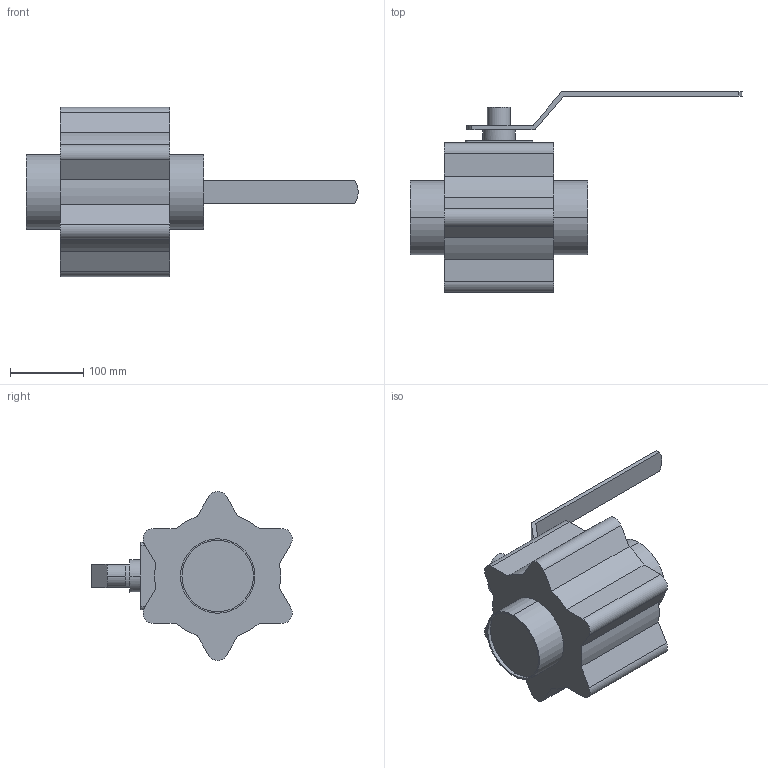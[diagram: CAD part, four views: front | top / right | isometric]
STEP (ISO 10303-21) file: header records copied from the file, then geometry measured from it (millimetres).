
FILE_DESCRIPTION(('Creo Elements/Direct Modeling STEP Export'),'2;1');
FILE_NAME('BLV1-4T-H-12S.stp','2019-05-10T 8:30:05',(''),(''),'Creo Elements/Direct Modeling STEP processor for AP214 (Solid Model)','Creo Elements/Direct Modeling 19.0F 14-Feb-2017 (C) Parametric Technology GmbH','');
FILE_SCHEMA(('AUTOMOTIVE_DESIGN { 1 0 10303 214 1 1 1 1 }'));
Length unit declared in the file: millimetre
Products named in the file (2): BLV1-4T-H-12S
Assembly tree (1 placements, depth 2):
  BLV1-4T-H-12S
    BLV1-4T-H-12S
Bounding box: 453.38 x 273.9 x 231 mm (x, y, z)
Volume: 5323623.2 mm3; surface area: 238797.4 mm2
Topology: 1 solids, 1 shells, 69 faces, 180 edges, 118 vertices
Faces by surface type: plane 38, cylinder 31
Entity records: 2088 total; most frequent: CARTESIAN_POINT 390, ORIENTED_EDGE 360, DIRECTION 336, EDGE_CURVE 180, VERTEX_POINT 118, AXIS2_PLACEMENT_3D 116, VECTOR 104, LINE 104
